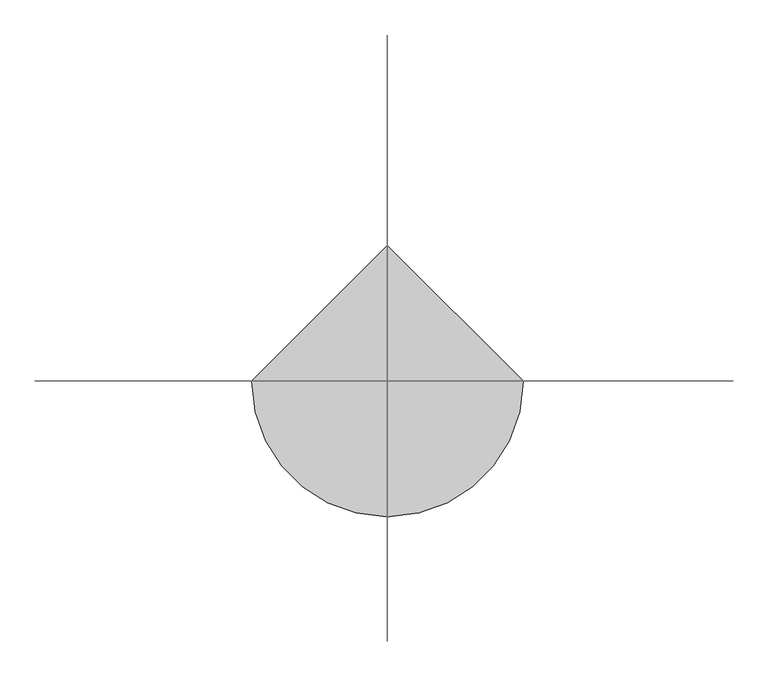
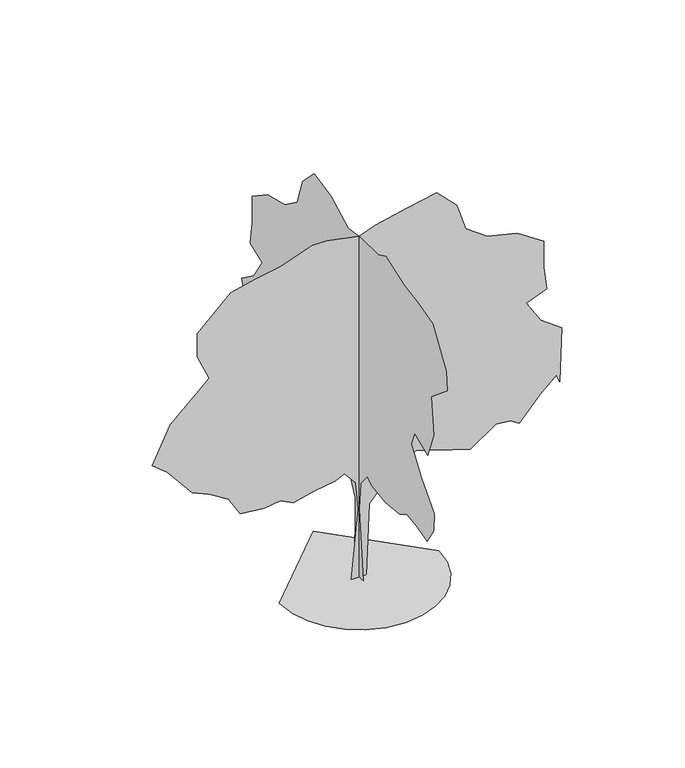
"""IFC4 building model written with IfcOpenShell, lengths in millimetres: geographic element geometry, RPC 木 - 秋 : ハナミズキ - 9.2 メートル."""

from ifc_helpers import new_model, si_unit, origin, place, context, project, spatial, triangles, source, transform, mapped, element, save


def geographic_element_49dd3785(model_context):
    return source(origin(), model_context, "Body", "Tessellation", [
        triangles([(-193.4886802, 0.0008256, 1.61e-05), (-16.8295482, 0.0006077, 1763.0383163), (-82.914552, 0.0005288, 2448.4336899), (-355.2582936, 0.0005012, 2780.1654762), (-572.6008049, 0.0005239, 2669.58647), (-1103.0860119, 0.000557, 2586.7354225), (-1601.5092224, 0.0005922, 2473.5932007), (-1910.2179955, 0.0005876, 2625.349926), (-2304.9468086, 0.0006105, 2578.1231575), (-2887.4478813, 0.0006296, 2631.7899399), (-3155.9858505, 0.0005886, 3074.0800941), (-3171.7790726, 0.0005366, 3516.3705391), (-3731.6762924, 0.0005677, 3460.8128838), (-4047.7988571, 0.0005666, 3585.7796745), (-4657.2227051, 0.0005049, 4326.5080078), (-5022.4120422, 0.0004871, 4609.9959366), (-4584.8747955, 0.0003597, 5518.18992), (-3637.0951469, 0.0002153, 6382.1726486), (-3935.0987595, 0.0001512, 7028.5244751), (-3927.2021484, 7.99e-05, 7624.1741638), (-3115.8124306, -4.66e-05, 8387.851387), (-2515.5502327, -8.98e-05, 8530.0165466), (-1915.2907963, -0.0001292, 8640.5958435), (-1125.4726542, -0.0001958, 8909.133522), (-776.1177429, -0.0002102, 8901.8502457), (-0.874499, -0.0002224, 8742.1280182), (390.977298, -0.0002605, 8896.3813934), (1180.792824, -0.0003154, 9067.0930664), (1881.800108, -0.0003619, 9200.0076279), (2365.5211636, -0.0003258, 8719.5881149), (2586.658683, -0.0002545, 8040.3464355), (3107.9413994, -0.000232, 7661.2294601), (3834.5886154, -0.0002431, 7487.4772751), (4482.2179802, -0.0002194, 7050.860321), (4482.2179802, -0.0001396, 6381.712793), (4561.2102516, -7.34e-05, 5797.2566071), (4055.721048, -2.87e-05, 5607.7112), (4415.4412422, 2.19e-05, 5051.2131912), (4924.5337143, 4.45e-05, 4675.7247734), (4877.8441223, 0.0002093, 3310.0860374), (4783.083918, 0.0001908, 3499.6317352), (4387.4580666, 0.0002506, 3143.4636497), (3890.4788086, 0.0003386, 2587.0932495), (3669.3207962, 0.0003314, 2729.2589905), (3314.5325684, 0.0003423, 2767.720015), (2699.3587807, 0.0004206, 2336.4185795), (2257.3879383, 0.0004239, 2470.8459846), (1830.8857738, 0.0004237, 2628.8000061), (1372.4213161, 0.000428, 2761.1012329), (1058.4531984, 0.0004733, 2495.8214951), (675.311178, 0.0005164, 2274.6736565), (562.2712392, 0.0005367, 2145.8198936), (249.9023516, 0.0005923, 1793.8480637), (174.5134031, 0.0008095, 0.0), (0.0021507, -183.9168444, 0.000528), (0.0022016, -7.25809, 1763.0383163), (0.0022286, -73.3432249, 2448.4336899), (0.0021973, -345.6877295, 2780.1654762), (0.002183, -563.0302408, 2669.58647), (0.0021223, -1093.5129044, 2586.7354225), (0.0020641, -1716.1616718, 2653.793248), (0.0020247, -2016.2940788, 2827.5457237), (0.0020054, -2411.022892, 2780.3445351), (0.0019459, -2869.3033493, 2653.8188278), (0.0019196, -3137.8413185, 3096.0836929), (0.0019383, -3153.6348312, 3538.3738472), (0.0020226, -2616.5588928, 4154.4423477), (0.0020674, -2193.2613293, 4757.6305298), (0.0020761, -2348.0181622, 5111.4728851), (0.0020087, -2885.096862, 4881.0636932), (0.0019928, -3137.8413185, 5544.5121506), (0.0020376, -3043.055825, 6476.4982864), (0.0019989, -3706.5039917, 7029.3680283), (0.0020217, -3659.1240349, 7503.2704971), (0.0020845, -3106.2292946, 8387.851387), (0.0021509, -2505.9798866, 8530.0165466), (0.0022158, -1905.7201595, 8640.5958435), (0.0023299, -1115.9020901, 8909.133522), (0.0023368, -815.7722992, 8766.9683624), (0.0024377, -41.7506538, 8751.2257187), (0.0024564, 463.7314691, 8672.1822876), (0.0025732, 1190.3633881, 9067.0930664), (0.0026435, 1891.3707447, 9200.0076279), (0.0026776, 2375.0918003, 8719.5881149), (0.0026915, 2596.2421097, 8040.3464355), (0.0027316, 3117.524826, 7661.2294601), (0.0027896, 3844.1464622, 7487.4772751), (0.0028327, 4491.8014069, 7050.860321), (0.0028374, 4491.8014069, 6381.712793), (0.0028153, 4570.7936783, 5797.2566071), (0.002751, 4065.3044746, 5607.7112), (0.0027763, 4424.9990891, 5051.2131912), (0.002816, 4934.0918518, 4675.7247734), (0.002756, 4570.7936783, 3664.7463661), (0.0027601, 4476.0078941, 3854.3176437), (0.0027014, 4033.7177399, 3727.9451248), (0.002662, 3749.3606781, 3111.876915), (0.0026247, 3528.2282455, 3254.0426559), (0.0025317, 2638.1532143, 3567.2261559), (0.0025158, 2232.6092182, 3609.3163193), (0.0024947, 2185.5359287, 3175.0759644), (0.0024491, 1759.0337643, 3333.0349274), (0.0023938, 1300.9397781, 3301.4481926), (0.0023484, 1068.026306, 2495.8214951), (0.0022881, 684.8817421, 2274.6736565), (0.0022895, 447.9355946, 2543.2116257), (0.0022508, 162.7200278, 1943.2562405), (0.0022007, 184.0849846, 2.96e-05), (-1933.4735527, 0.0, 0.0087693), (-1882.3573414, -443.0237941, 0.0087143), (-1736.7851223, -849.8710899, 0.0086594), (-1508.4076378, -1208.8835512, 0.0086066), (-1208.8835512, -1508.4076378, 0.0085578), (-849.8710899, -1736.7825062, 0.0085149), (-443.0237941, -1882.3573414, 0.0084798), (7.44e-05, -1933.4735527, 0.0084543), (443.0237941, -1882.3573414, 0.0084411), (849.8710899, -1736.7851223, 0.0084406), (1208.8835512, -1508.4076378, 0.0084522), (1508.4076378, -1208.8835512, 0.0084748), (1736.7851223, -849.8710899, 0.0085076), (1882.3573414, -443.0237941, 0.0085497), (1933.4735527, 0.000169, 0.0086003), (-0.000265, 1933.4735527, 0.0089153)], [[39, 40, 41], [46, 47, 48], [42, 43, 44], [54, 1, 2], [53, 54, 2], [53, 2, 3], [52, 53, 3], [15, 16, 17], [38, 39, 41], [50, 51, 52], [49, 50, 52], [35, 36, 37], [38, 41, 42], [9, 10, 11], [15, 17, 18], [9, 11, 12], [9, 12, 13], [8, 9, 13], [42, 44, 45], [38, 42, 45], [37, 38, 45], [37, 45, 46], [52, 3, 4], [8, 13, 14], [49, 52, 4], [33, 34, 35], [33, 35, 37], [32, 33, 37], [32, 37, 46], [31, 32, 46], [18, 19, 20], [18, 20, 21], [18, 21, 22], [18, 22, 23], [28, 29, 30], [28, 30, 31], [27, 28, 31], [27, 31, 46], [26, 27, 46], [26, 46, 48], [26, 48, 49], [26, 49, 4], [25, 26, 4], [25, 4, 5], [25, 5, 6], [25, 6, 7], [25, 7, 8], [25, 8, 14], [25, 14, 15], [25, 15, 18], [25, 18, 23], [25, 23, 24], [93, 94, 95], [100, 101, 102], [96, 97, 98], [108, 55, 56], [107, 108, 56], [107, 56, 57], [106, 107, 57], [69, 70, 71], [92, 93, 95], [104, 105, 106], [103, 104, 106], [89, 90, 91], [92, 95, 96], [63, 64, 65], [69, 71, 72], [63, 65, 66], [63, 66, 67], [62, 63, 67], [96, 98, 99], [92, 96, 99], [91, 92, 99], [91, 99, 100], [106, 57, 58], [62, 67, 68], [103, 106, 58], [87, 88, 89], [87, 89, 91], [86, 87, 91], [86, 91, 100], [85, 86, 100], [72, 73, 74], [72, 74, 75], [72, 75, 76], [72, 76, 77], [82, 83, 84], [82, 84, 85], [81, 82, 85], [81, 85, 100], [80, 81, 100], [80, 100, 102], [80, 102, 103], [80, 103, 58], [79, 80, 58], [79, 58, 59], [79, 59, 60], [79, 60, 61], [79, 61, 62], [79, 62, 68], [79, 68, 69], [79, 69, 72], [79, 72, 77], [79, 77, 78], [123, 124, 109], [122, 123, 109], [122, 109, 110], [121, 122, 110], [121, 110, 111], [121, 111, 112], [120, 121, 112], [119, 120, 112], [119, 112, 113], [119, 113, 114], [119, 114, 115], [119, 115, 116], [119, 116, 117], [119, 117, 118]], closed=False),
    ])


if __name__ == "__main__":
    model = new_model("IFC4")
    model_context = context("Model", 3, world=origin())
    ifc_project = project(units=[si_unit("LENGTHUNIT", "METRE", prefix="MILLI")], contexts=[model_context])
    site = spatial("IfcSite", under=ifc_project)
    building = spatial("IfcBuilding", under=site)
    placement = place(None, origin())
    geographic_element_shape = geographic_element_49dd3785(model_context)
    element("IfcGeographicElement", 1, ObjectType="RPC 木 - 秋 : ハナミズキ - 9.2 メートル", at=placement, inside=building, context=model_context, shape_type="MappedRepresentation", body=[
        mapped(geographic_element_shape, transform((0.0, 0.0, 0.0), x_axis=(1.0, 0.0, 0.0), y_axis=(0.0, 1.0, 0.0), z_axis=(0.0, 0.0, 1.0))),
    ])
    save(model, "model.ifc")
